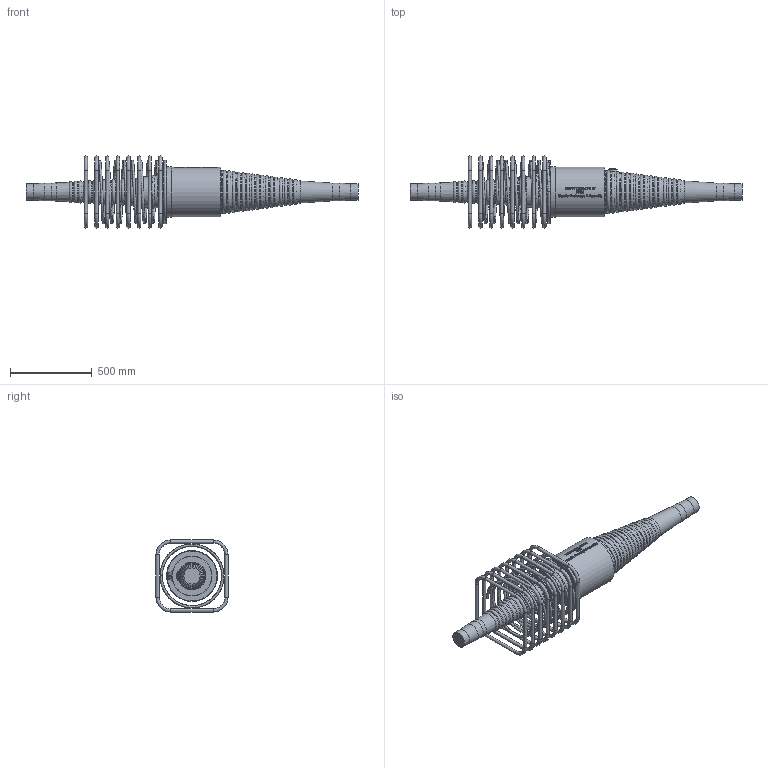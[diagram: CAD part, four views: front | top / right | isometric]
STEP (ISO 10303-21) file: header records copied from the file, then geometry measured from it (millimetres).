
FILE_DESCRIPTION(/* description */ (''),/* implementation_level */ '2;1');
FILE_NAME(/* name */ 'Z:\04 Publications\05 Give-out\BBR\6_3D_Models\BBR VT CONA CMI\BBR VT CONA CMI BT\02206\BBR VT CONA CMI BT 2206_Coupler H Assembly_CS-34,28.stp',/* time_stamp */ '2017-05-05T09:43:43+02:00',/* author */ ('IP'),/* organization */ (''),/* preprocessor_version */ 'ST-DEVELOPER v16.1',/* originating_system */ 'Autodesk Inventor 2016',/* authorisation */ '');
FILE_SCHEMA (('AUTOMOTIVE_DESIGN { 1 0 10303 214 3 1 1 }'));
Length unit declared in the file: millimetre
Products named in the file (1): BBR VT CONA CMI BT 2206_Coupler H Assembly_CS-34,28
Bounding box: 2027.13 x 440 x 440 mm (x, y, z)
Volume: 64578529.5 mm3; surface area: 2590151.6 mm2
Topology: 10 solids, 10 shells, 997 faces, 2540 edges, 1606 vertices
Faces by surface type: bspline 392, plane 304, torus 146, cylinder 117, cone 36, sphere 2
Full cylindrical faces by diameter (mm): 20 x32, 33 x1, 34 x1, 56 x1, 57 x1, 99 x2, 109 x2, 187 x1, 243.942 x1, 305 x1, 310 x1
Entity records: 40776 total; most frequent: CARTESIAN_POINT 19521, ORIENTED_EDGE 4622, DIRECTION 3316, EDGE_CURVE 2311, VERTEX_POINT 1595, EDGE_LOOP 1276, AXIS2_PLACEMENT_3D 1200, FACE_OUTER_BOUND 997
